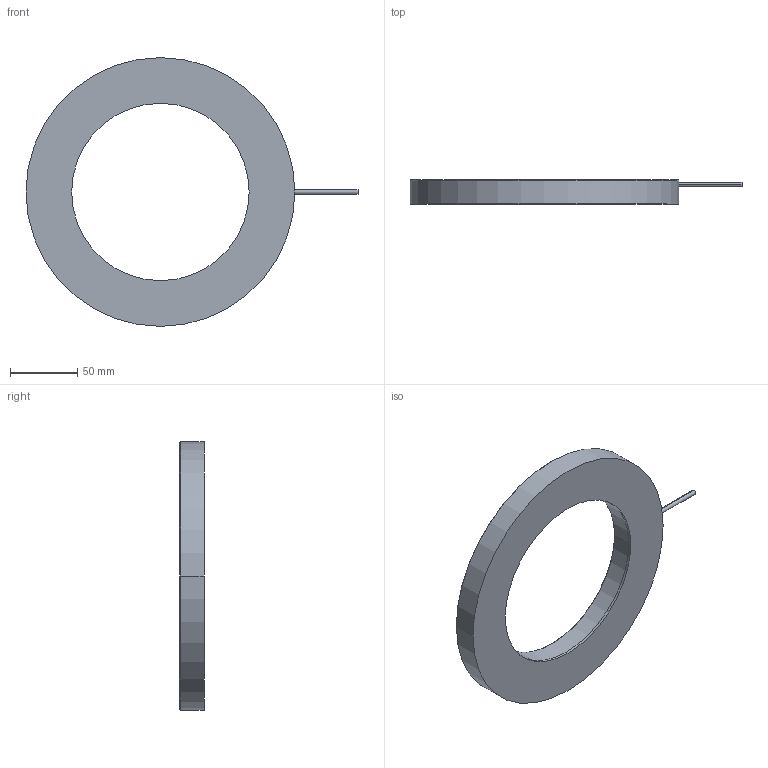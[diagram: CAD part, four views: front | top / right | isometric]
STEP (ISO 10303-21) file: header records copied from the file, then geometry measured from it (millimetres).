
FILE_DESCRIPTION((''),'2;1');
FILE_NAME('MV-LRDS-200-90','2019-09-19T',('rs-zhongwm'),(''),'PRO/ENGINEER BY PARAMETRIC TECHNOLOGY CORPORATION, 2010100','PRO/ENGINEER BY PARAMETRIC TECHNOLOGY CORPORATION, 2010100','');
FILE_SCHEMA(('CONFIG_CONTROL_DESIGN'));
Length unit declared in the file: millimetre
Products named in the file (1): MV-LRDS-200-90
Bounding box: 247 x 18 x 200 mm (x, y, z)
Volume: 319233.7 mm3; surface area: 54648.2 mm2
Topology: 1 solids, 5 shells, 43 faces, 105 edges, 64 vertices
Faces by surface type: cylinder 24, cone 12, plane 7
Entity records: 1334 total; most frequent: CARTESIAN_POINT 301, DIRECTION 221, ORIENTED_EDGE 178, EDGE_CURVE 97, AXIS2_PLACEMENT_3D 92, VERTEX_POINT 64, EDGE_LOOP 53, CIRCLE 48
